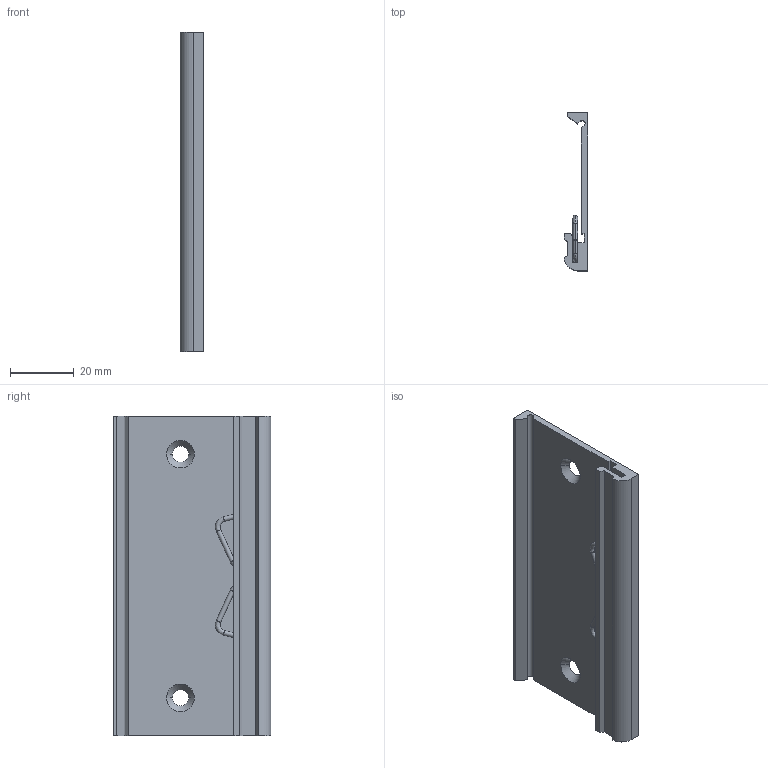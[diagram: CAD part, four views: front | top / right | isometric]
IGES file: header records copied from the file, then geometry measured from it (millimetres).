
Start section:  PTC IGES file: cu_cfp_clip_din_rail.igs
Global section: file name: cu_cfp_clip_din_rail.igs; native system: Creo Parametric by Parametric Technology Corporation; preprocessor: 2015280; author: dkendric; organization: Unknown; date: 20160215.112417; units: inch
Bounding box: 7.49 x 49.28 x 100 mm (x, y, z)
Surface area: 14721.5 mm2 (no closed solid volume)
Topology: 0 solids, 0 shells, 52 faces, 248 edges, 248 vertices
Faces by surface type: revolution 29, bspline 23
